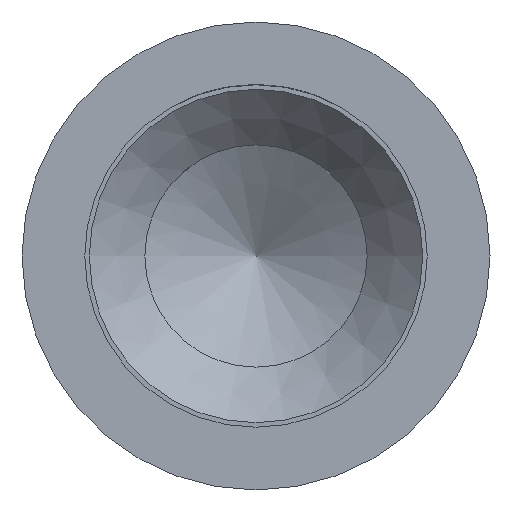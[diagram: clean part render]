
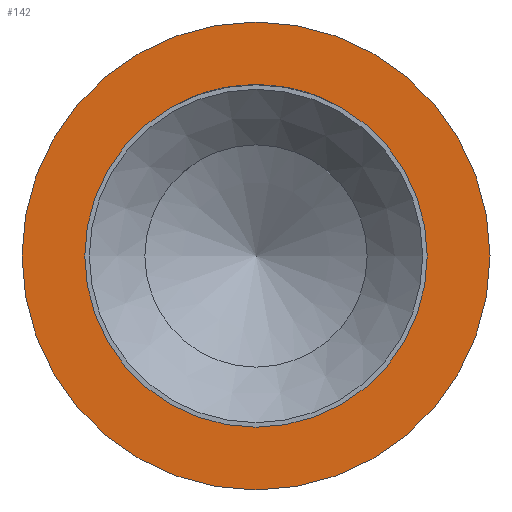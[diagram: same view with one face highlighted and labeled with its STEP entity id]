
A CAD part, left-side view. The second image highlights one B-rep face of the part: STEP entity #142.
In plain terms, the highlighted planar face has unit normal (-1, 0, 0).
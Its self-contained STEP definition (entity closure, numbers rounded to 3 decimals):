
#17=PLANE($,#165);
#36=FACE_BOUND($,#67,.T.);
#46=FACE_OUTER_BOUND($,#66,.T.);
#66=EDGE_LOOP($,(#124));
#67=EDGE_LOOP($,(#125));
#79=CIRCLE($,#164,1.31);
#80=CIRCLE($,#166,1.79);
#91=VERTEX_POINT($,#310);
#92=VERTEX_POINT($,#313);
#103=EDGE_CURVE($,#91,#91,#79,.T.);
#104=EDGE_CURVE($,#92,#92,#80,.T.);
#124=ORIENTED_EDGE($,*,*,#104,.F.);
#125=ORIENTED_EDGE($,*,*,#103,.T.);
#142=ADVANCED_FACE($,(#46,#36),#17,.T.);
#164=AXIS2_PLACEMENT_3D($,#311,#204,#205);
#165=AXIS2_PLACEMENT_3D($,#312,#206,#207);
#166=AXIS2_PLACEMENT_3D($,#314,#208,#209);
#204=DIRECTION('center_axis',(1.,0.,0.));
#205=DIRECTION('ref_axis',(0.,1.,0.));
#206=DIRECTION('center_axis',(-1.,0.,0.));
#207=DIRECTION('ref_axis',(0.,0.,1.));
#208=DIRECTION('center_axis',(1.,0.,0.));
#209=DIRECTION('ref_axis',(0.,1.,0.));
#310=CARTESIAN_POINT('',(-13.87,1.31,0.));
#311=CARTESIAN_POINT('Origin',(-13.87,0.,0.));
#312=CARTESIAN_POINT('Origin',(-13.87,1.55,0.));
#313=CARTESIAN_POINT('',(-13.87,1.79,0.));
#314=CARTESIAN_POINT('Origin',(-13.87,0.,0.));
